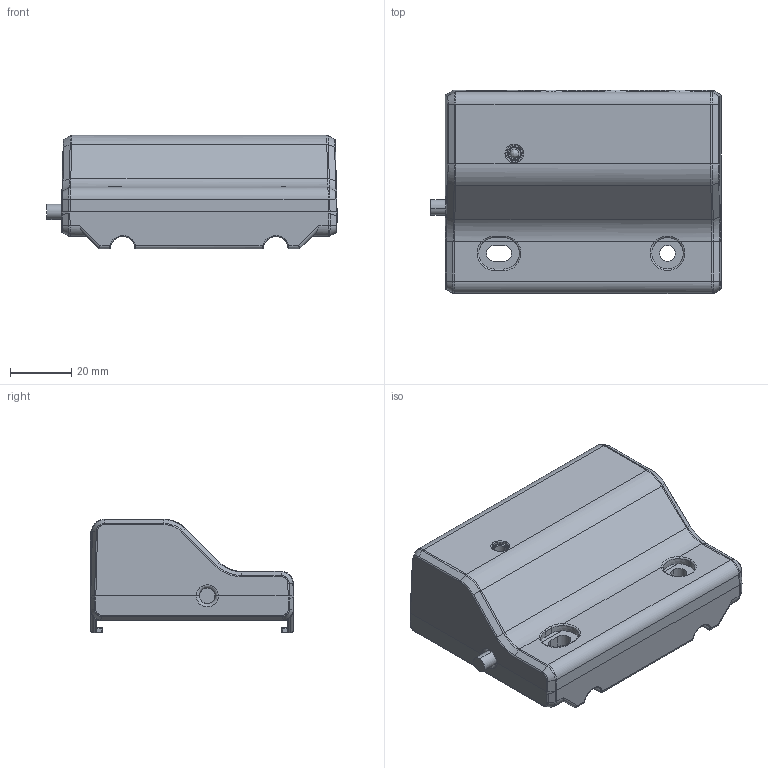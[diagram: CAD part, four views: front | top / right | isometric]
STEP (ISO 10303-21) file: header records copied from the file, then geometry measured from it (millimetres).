
FILE_DESCRIPTION (( 'STEP AP203' ), '1' );
FILE_NAME ('產品三維模型圖 TJB10-0.STEP', '2018-10-24T02:51:40', ( '' ), ( '' ), 'SwSTEP 2.0', 'SolidWorks 2015', '' );
FILE_SCHEMA (( 'CONFIG_CONTROL_DESIGN' ));
Products named in the file (1): 產品三維模型圖 TJB10-0
Bounding box: 94.73 x 66.4 x 37 mm (x, y, z)
Volume: 143576.9 mm3; surface area: 37083 mm2
Topology: 10 solids, 10 shells, 742 faces, 1941 edges, 1230 vertices
Faces by surface type: plane 349, cylinder 249, bspline 91, torus 35, cone 14, sphere 4
Entity records: 30843 total; most frequent: CARTESIAN_POINT 13603, ORIENTED_EDGE 3870, DIRECTION 3156, EDGE_CURVE 1935, VERTEX_POINT 1230, LINE 1102, VECTOR 1102, AXIS2_PLACEMENT_3D 1027
